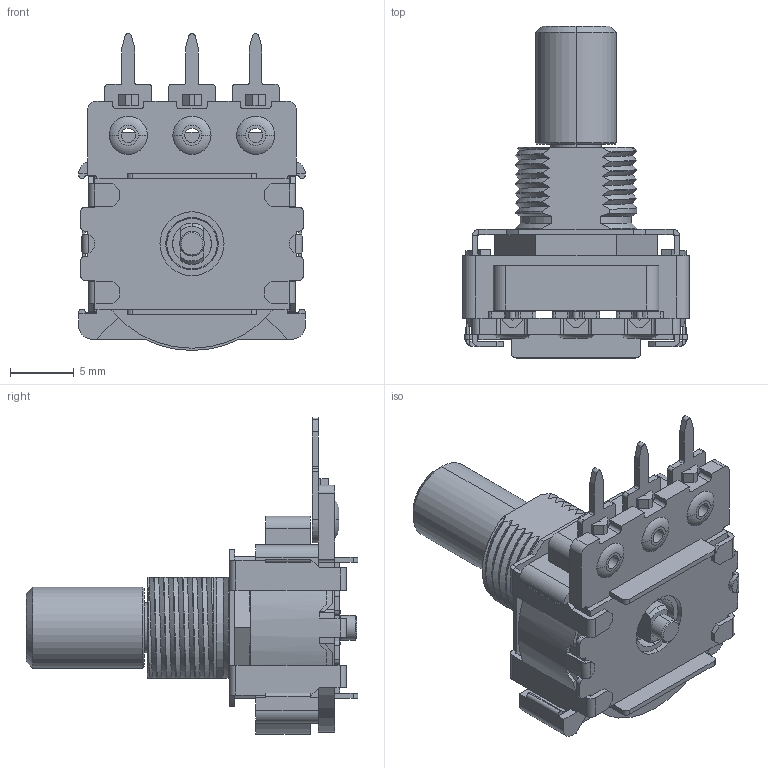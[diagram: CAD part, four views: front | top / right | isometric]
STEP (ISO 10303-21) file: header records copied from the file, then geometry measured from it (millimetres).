
FILE_DESCRIPTION (( 'STEP AP214' ), '1' );
FILE_NAME ('280X220R103A121.STEP', '2019-05-24T08:20:49', ( '' ), ( '' ), 'SwSTEP 2.0', 'SolidWorks 2019', '' );
FILE_SCHEMA (( 'AUTOMOTIVE_DESIGN' ));
Length unit declared in the file: millimetre
Products named in the file (9): 280E-B-2334; 280-07-001-01-53; 280-02-010-40-01B; 280X220R103A121; 280-95-002-00-00(for 011 base); 280-18-001-01-37(Roll over); 280-01-011-30-01(.162); 280-08-T01; 280S-ER-11148-20
Assembly tree (10 placements, depth 3):
  280X220R103A121
    280-02-010-40-01B
    280-95-002-00-00(for 011 base)
      280-01-011-30-01(.162)
      280-18-001-01-37(Roll over)  x3
    280E-B-2334
    280-07-001-01-53
    280-08-T01
    280S-ER-11148-20
Bounding box: 17.78 x 26.06 x 24.89 mm (x, y, z)
Volume: 1846.7 mm3; surface area: 4041.5 mm2
Topology: 9 solids, 9 shells, 606 faces, 1680 edges, 1096 vertices
Faces by surface type: plane 361, cylinder 161, bspline 48, cone 22, torus 14
Entity records: 25680 total; most frequent: CARTESIAN_POINT 12117, ORIENTED_EDGE 2916, DIRECTION 2598, EDGE_CURVE 1458, VERTEX_POINT 952, VECTOR 930, LINE 930, AXIS2_PLACEMENT_3D 834
